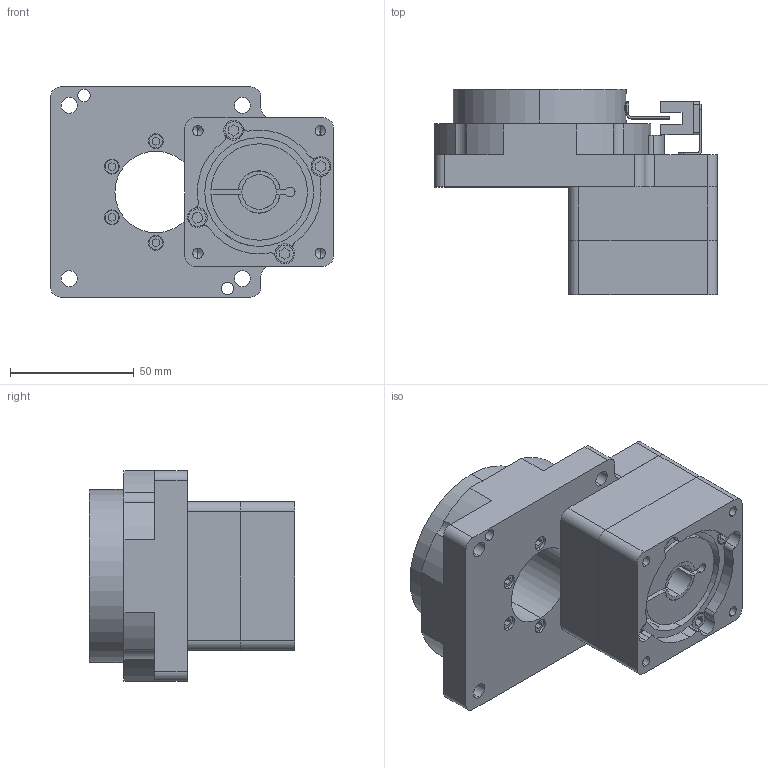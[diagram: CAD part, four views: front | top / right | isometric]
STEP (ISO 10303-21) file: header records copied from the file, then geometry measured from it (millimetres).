
FILE_DESCRIPTION(('Open CASCADE Model'),'2;1');
FILE_NAME('Open CASCADE Shape Model','2026-10-11T03:02:38',('Author'),( 'Open CASCADE'),'Open CASCADE STEP processor 7.8','Open CASCADE 7.8' ,'Unknown');
FILE_SCHEMA(('AUTOMOTIVE_DESIGN { 1 0 10303 214 1 1 1 1 }'));
Length unit declared in the file: millimetre
Products named in the file (3): NT85-10(配伺服400W 输入14-32 50-5 4-M5-70); NT85-10(配伺服400W 输入14-32 50-5 4-M5-70)-01; NT85-10(配伺服400W 输入14-32 50-5 4-M5-70)-02
Assembly tree (2 placements, depth 2):
  NT85-10(配伺服400W 输入14-32 50-5 4-M5-70)
    NT85-10(配伺服400W 输入14-32 50-5 4-M5-70)-01
    NT85-10(配伺服400W 输入14-32 50-5 4-M5-70)-02
Bounding box: 114.3 x 83 x 85 mm (x, y, z)
Volume: 342803.3 mm3; surface area: 73216.1 mm2
Topology: 6 solids, 12 shells, 1083 faces, 2936 edges, 1928 vertices
Faces by surface type: plane 831, cylinder 216, cone 36
Entity records: 71435 total; most frequent: CARTESIAN_POINT 15026, DIRECTION 9861, LINE 6632, VECTOR 6632, ORIENTED_EDGE 5800, PCURVE 5800, DEFINITIONAL_REPRESENTATION 5800, EDGE_CURVE 2900
